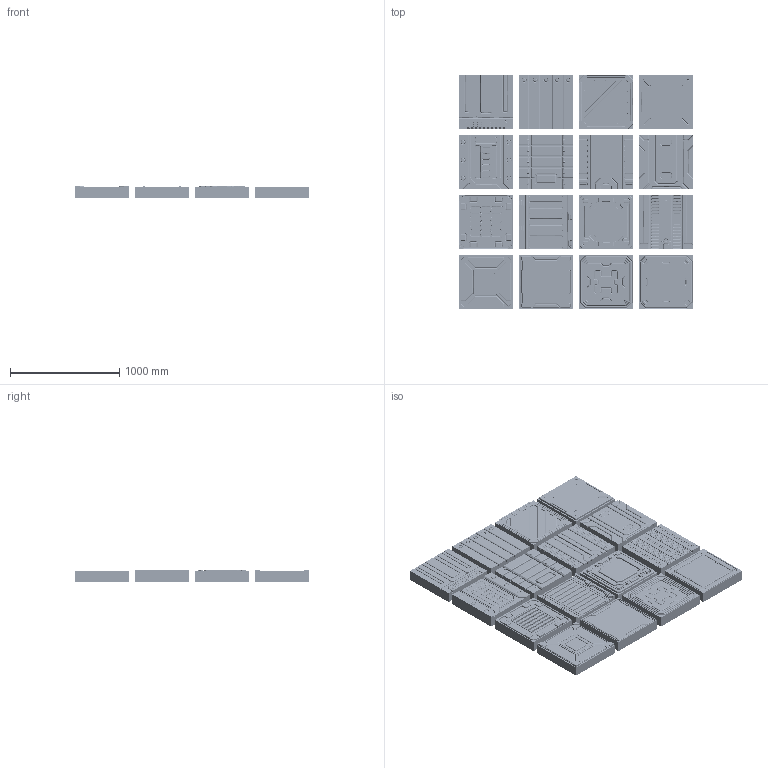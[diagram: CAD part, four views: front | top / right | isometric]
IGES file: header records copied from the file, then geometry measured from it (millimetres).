
Global section: file name: TileSet50x50 ; native system: unknown; preprocessor: unknown; author: unknown; organization: unknown; date: 20220502.162732; units: centimetre
Bounding box: 2150 x 2150 x 110 mm (x, y, z)
Volume: 388816048.6 mm3; surface area: 13625959.9 mm2
Topology: 16 solids, 16 shells, 10563 faces, 24359 edges, 14095 vertices
Faces by surface type: bspline 10563
